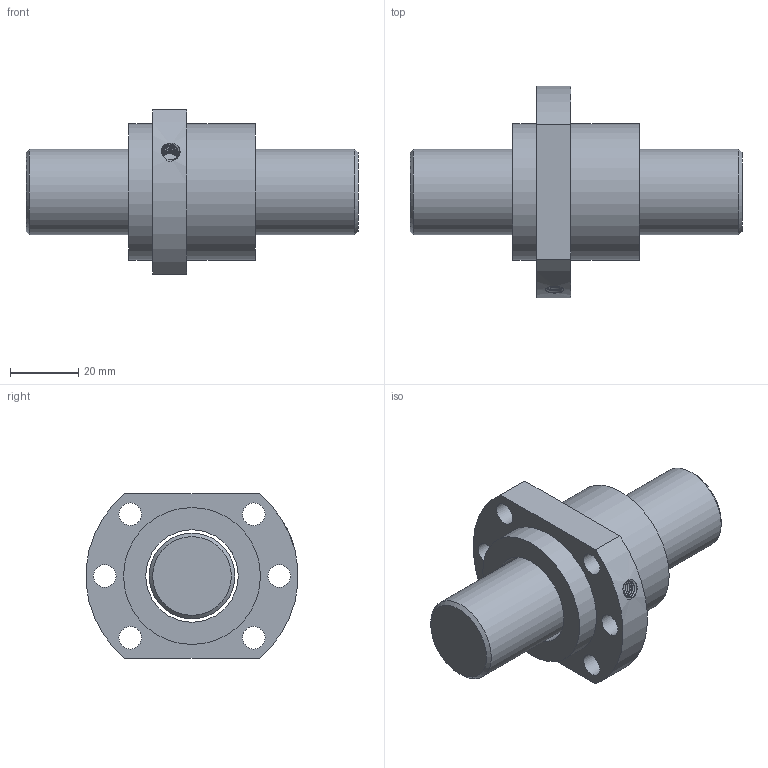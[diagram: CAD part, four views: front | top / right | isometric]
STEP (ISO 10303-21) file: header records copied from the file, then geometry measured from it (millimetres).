
FILE_DESCRIPTION(/* description */ ('Unknown','CAx-IF Rec.Pracs.---Representation and Presentation of Product Manufacturing Information (PMI)---4.0---2014-10-13','CAx-IF Rec.Pracs.---3D Tessellated Geometry---0.4---2014-09-14','2;1'),/* implementation_level */ '2;1');
FILE_NAME(/* name */ 'SFH2505-3.8',/* time_stamp */ '2020-12-07T15:36:00+08:00',/* author */ ('Unknown'),/* organization */ ('Unknown'),/* preprocessor_version */ 'ST-DEVELOPER v16.7',/* originating_system */ 'Solid Edge',/* authorisation */ 'Unknown');
FILE_SCHEMA (('AP242_MANAGED_MODEL_BASED_3D_ENGINEERING_MIM_LF { 1 0 10303 442 1 1 4 }'));
Length unit declared in the file: millimetre
Products named in the file (1): SFH2505-3.8
Bounding box: 97 x 61.8 x 48 mm (x, y, z)
Volume: 84467.1 mm3; surface area: 22156.8 mm2
Topology: 2 solids, 2 shells, 28 faces, 64 edges, 43 vertices
Faces by surface type: cylinder 15, plane 9, bspline 2, cone 2
Full cylindrical faces by diameter (mm): 1.5 x1, 6.6 x6, 25 x1, 27 x1, 40 x2
Entity records: 3124 total; most frequent: CARTESIAN_POINT 2453, DIRECTION 126, ORIENTED_EDGE 96, EDGE_LOOP 60, FACE_BOUND 60, AXIS2_PLACEMENT_3D 60, EDGE_CURVE 48, VERTEX_POINT 40
